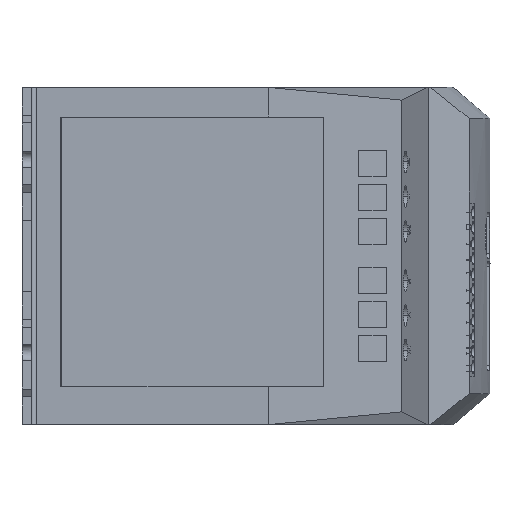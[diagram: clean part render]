
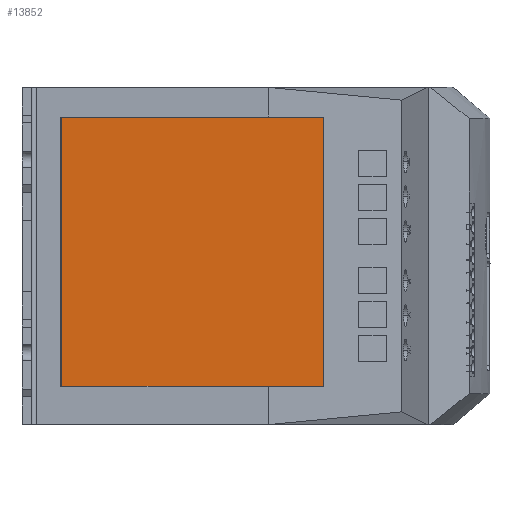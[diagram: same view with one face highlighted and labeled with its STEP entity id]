
A CAD part, front view. The second image highlights one B-rep face of the part: STEP entity #13852.
In plain terms, the highlighted planar face has unit normal (-0.035, -0.999, 0).
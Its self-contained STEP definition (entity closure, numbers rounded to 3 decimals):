
#660 = EDGE_CURVE ( 'NONE', #19357, #16162, #17055, .T. ) ;
#1346 = CARTESIAN_POINT ( 'NONE',  ( -3.419, -97.916, 0. ) ) ;
#1445 = FACE_OUTER_BOUND ( 'NONE', #9807, .T. ) ;
#2017 = LINE ( 'NONE', #21557, #20241 ) ;
#2725 = VERTEX_POINT ( 'NONE', #14571 ) ;
#4635 = DIRECTION ( 'NONE',  ( 0., 0., -1. ) ) ;
#5027 = EDGE_CURVE ( 'NONE', #2725, #14932, #28419, .T. ) ;
#5044 = EDGE_CURVE ( 'NONE', #16162, #2725, #2017, .T. ) ;
#5506 = PLANE ( 'NONE',  #21666 ) ;
#5666 = LINE ( 'NONE', #24138, #27611 ) ;
#5703 = DIRECTION ( 'NONE',  ( -0.999, 0.035, 0. ) ) ;
#6131 = ORIENTED_EDGE ( 'NONE', *, *, #5044, .T. ) ;
#8146 = ORIENTED_EDGE ( 'NONE', *, *, #5027, .T. ) ;
#9807 = EDGE_LOOP ( 'NONE', ( #19675, #13028, #6131, #8146 ) ) ;
#10696 = EDGE_CURVE ( 'NONE', #14932, #19357, #5666, .T. ) ;
#13028 = ORIENTED_EDGE ( 'NONE', *, *, #660, .T. ) ;
#13852 = ADVANCED_FACE ( 'NONE', ( #1445 ), #5506, .F. ) ;
#14497 = DIRECTION ( 'NONE',  ( 0.999, -0.035, 0. ) ) ;
#14571 = CARTESIAN_POINT ( 'NONE',  ( -52.135, -96.215, 99.42 ) ) ;
#14932 = VERTEX_POINT ( 'NONE', #25601 ) ;
#16162 = VERTEX_POINT ( 'NONE', #20354 ) ;
#16597 = DIRECTION ( 'NONE',  ( -0.999, 0.035, 0. ) ) ;
#16618 = DIRECTION ( 'NONE',  ( 0., 0., 1. ) ) ;
#17055 = LINE ( 'NONE', #18895, #17426 ) ;
#17348 = CARTESIAN_POINT ( 'NONE',  ( 32.813, -99.182, 12.42 ) ) ;
#17426 = VECTOR ( 'NONE', #16618, 1000. ) ;
#18895 = CARTESIAN_POINT ( 'NONE',  ( 32.813, -99.182, 99.42 ) ) ;
#19357 = VERTEX_POINT ( 'NONE', #17348 ) ;
#19675 = ORIENTED_EDGE ( 'NONE', *, *, #10696, .T. ) ;
#20241 = VECTOR ( 'NONE', #16597, 1000. ) ;
#20354 = CARTESIAN_POINT ( 'NONE',  ( 32.813, -99.182, 99.42 ) ) ;
#21557 = CARTESIAN_POINT ( 'NONE',  ( 32.813, -99.182, 99.42 ) ) ;
#21666 = AXIS2_PLACEMENT_3D ( 'NONE', #1346, #24867, #5703 ) ;
#24138 = CARTESIAN_POINT ( 'NONE',  ( 32.813, -99.182, 12.42 ) ) ;
#24867 = DIRECTION ( 'NONE',  ( 0.035, 0.999, 0. ) ) ;
#25601 = CARTESIAN_POINT ( 'NONE',  ( -52.135, -96.215, 12.42 ) ) ;
#26256 = CARTESIAN_POINT ( 'NONE',  ( -52.135, -96.215, 99.42 ) ) ;
#27308 = VECTOR ( 'NONE', #4635, 1000. ) ;
#27611 = VECTOR ( 'NONE', #14497, 1000. ) ;
#28419 = LINE ( 'NONE', #26256, #27308 ) ;
